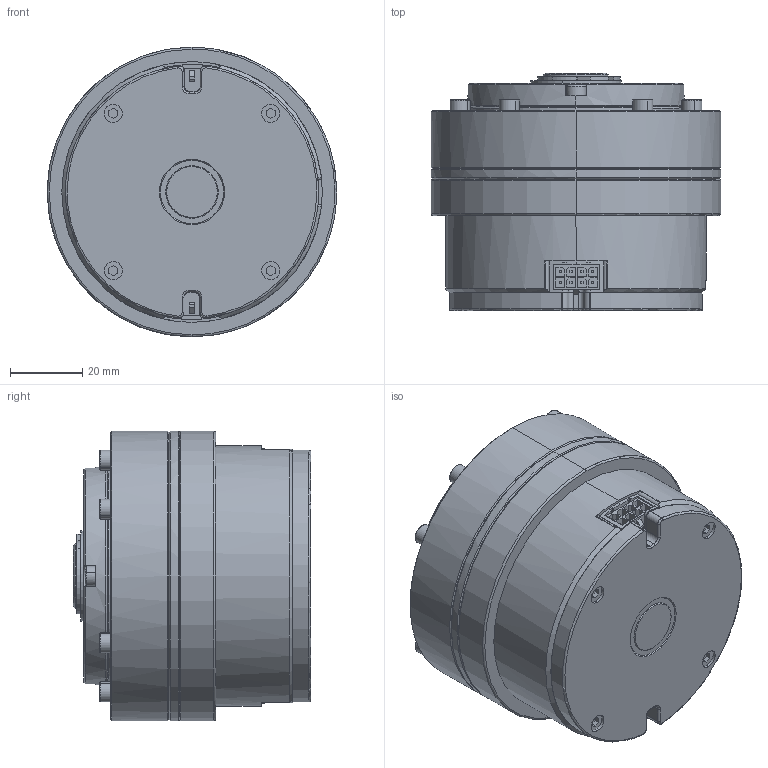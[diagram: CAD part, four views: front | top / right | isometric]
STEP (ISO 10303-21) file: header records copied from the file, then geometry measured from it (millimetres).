
FILE_DESCRIPTION (( 'STEP AP214' ), '1' );
FILE_NAME ('QDD_Pro-6010-30-80_v2_2.STEP', '2019-05-08T06:28:40', ( 'Microsoft' ), ( 'Microsoft' ), 'SwSTEP 2.0', 'SolidWorks 2018', '' );
FILE_SCHEMA (( 'AUTOMOTIVE_DESIGN' ));
Length unit declared in the file: millimetre
Products named in the file (1): QDD_Pro-6010-30-80_v2_2
Bounding box: 80 x 65.68 x 80 mm (x, y, z)
Volume: 209203.9 mm3; surface area: 113993.2 mm2
Topology: 111 solids, 111 shells, 2897 faces, 7161 edges, 4545 vertices
Faces by surface type: plane 1575, cylinder 766, cone 421, torus 68, bspline 67
Entity records: 129244 total; most frequent: CARTESIAN_POINT 29508, ORIENTED_EDGE 14138, DIRECTION 12909, EDGE_CURVE 7069, VERTEX_POINT 4545, VECTOR 4417, LINE 4417, AXIS2_PLACEMENT_3D 4246
